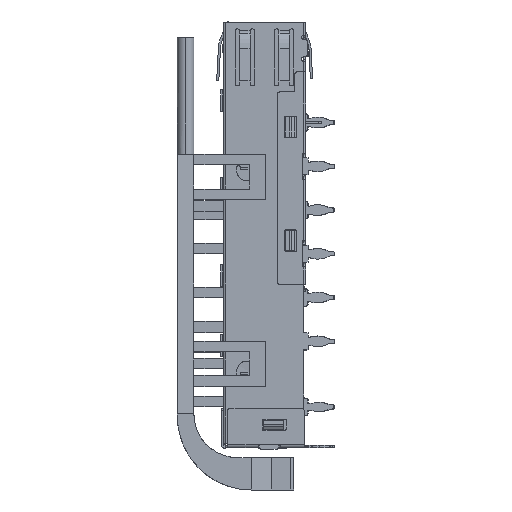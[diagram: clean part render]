
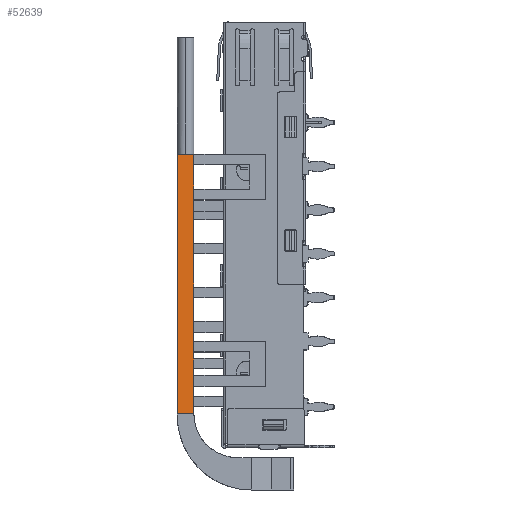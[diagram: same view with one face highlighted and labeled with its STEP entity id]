
A CAD part, left-side view. The second image highlights one B-rep face of the part: STEP entity #52639.
In plain terms, the highlighted planar face has unit normal (-0.997, 0, 0.079).
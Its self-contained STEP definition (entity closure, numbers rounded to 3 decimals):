
#36967=CARTESIAN_POINT('',(119.57,176.489,-41.7));
#36968=VERTEX_POINT('',#36967);
#37095=CARTESIAN_POINT('',(119.674,176.489,-40.4));
#37096=VERTEX_POINT('',#37095);
#37223=CARTESIAN_POINT('',(119.888,176.489,-37.7));
#37224=VERTEX_POINT('',#37223);
#37263=CARTESIAN_POINT('',(119.984,176.489,-36.5));
#37264=VERTEX_POINT('',#37263);
#37325=CARTESIAN_POINT('',(121.271,176.489,-20.3));
#37326=VERTEX_POINT('',#37325);
#37469=CARTESIAN_POINT('',(121.366,176.489,-19.1));
#37470=VERTEX_POINT('',#37469);
#37525=CARTESIAN_POINT('',(121.588,176.489,-16.3));
#37526=VERTEX_POINT('',#37525);
#37669=CARTESIAN_POINT('',(121.684,178.389,-15.1));
#37670=VERTEX_POINT('',#37669);
#37678=CARTESIAN_POINT('',(121.684,176.489,-15.1));
#37679=VERTEX_POINT('',#37678);
#37680=CARTESIAN_POINT('',(121.684,176.489,-15.1));
#37681=CARTESIAN_POINT('',(121.684,177.122,-15.1));
#37682=CARTESIAN_POINT('',(121.684,177.756,-15.1));
#37683=CARTESIAN_POINT('',(121.684,178.389,-15.1));
#37684=B_SPLINE_CURVE_WITH_KNOTS('',3,(#37680,#37681,#37682,#37683),.UNSPECIFIED.,.F.,.U.,(4,4),(0.,1.),.UNSPECIFIED.);
#37685=EDGE_CURVE('',#37679,#37670,#37684,.T.);
#52073=CARTESIAN_POINT('',(119.57,176.489,-41.7));
#52074=CARTESIAN_POINT('',(119.605,176.489,-41.267));
#52075=CARTESIAN_POINT('',(119.639,176.489,-40.833));
#52076=CARTESIAN_POINT('',(119.674,176.489,-40.4));
#52077=B_SPLINE_CURVE_WITH_KNOTS('',3,(#52073,#52074,#52075,#52076),.UNSPECIFIED.,.F.,.U.,(4,4),(0.,1.),.UNSPECIFIED.);
#52078=EDGE_CURVE('',#36968,#37096,#52077,.T.);
#52091=CARTESIAN_POINT('',(119.324,176.489,-44.8));
#52092=VERTEX_POINT('',#52091);
#52093=CARTESIAN_POINT('',(119.324,176.489,-44.8));
#52094=CARTESIAN_POINT('',(119.406,176.489,-43.767));
#52095=CARTESIAN_POINT('',(119.488,176.489,-42.733));
#52096=CARTESIAN_POINT('',(119.57,176.489,-41.7));
#52097=B_SPLINE_CURVE_WITH_KNOTS('',3,(#52093,#52094,#52095,#52096),.UNSPECIFIED.,.F.,.U.,(4,4),(0.,1.),.UNSPECIFIED.);
#52098=EDGE_CURVE('',#52092,#36968,#52097,.T.);
#52186=CARTESIAN_POINT('',(119.324,178.389,-44.8));
#52187=VERTEX_POINT('',#52186);
#52194=CARTESIAN_POINT('',(119.324,178.389,-44.8));
#52195=DIRECTION('',(0.079,0.,0.997));
#52196=VECTOR('',#52195,29.794);
#52197=LINE('',#52194,#52196);
#52198=EDGE_CURVE('',#52187,#37670,#52197,.T.);
#52334=CARTESIAN_POINT('',(121.271,176.489,-20.3));
#52335=DIRECTION('',(-0.079,0.,-0.997));
#52336=VECTOR('',#52335,16.251);
#52337=LINE('',#52334,#52336);
#52338=EDGE_CURVE('',#37326,#37264,#52337,.T.);
#52353=CARTESIAN_POINT('',(119.674,176.489,-40.4));
#52354=CARTESIAN_POINT('',(119.745,176.489,-39.5));
#52355=CARTESIAN_POINT('',(119.817,176.489,-38.6));
#52356=CARTESIAN_POINT('',(119.888,176.489,-37.7));
#52357=B_SPLINE_CURVE_WITH_KNOTS('',3,(#52353,#52354,#52355,#52356),.UNSPECIFIED.,.F.,.U.,(4,4),(0.,1.),.UNSPECIFIED.);
#52358=EDGE_CURVE('',#37096,#37224,#52357,.T.);
#52413=CARTESIAN_POINT('',(119.888,176.489,-37.7));
#52414=CARTESIAN_POINT('',(119.92,176.489,-37.3));
#52415=CARTESIAN_POINT('',(119.952,176.489,-36.9));
#52416=CARTESIAN_POINT('',(119.984,176.489,-36.5));
#52417=B_SPLINE_CURVE_WITH_KNOTS('',3,(#52413,#52414,#52415,#52416),.UNSPECIFIED.,.F.,.U.,(4,4),(0.,1.),.UNSPECIFIED.);
#52418=EDGE_CURVE('',#37224,#37264,#52417,.T.);
#52479=CARTESIAN_POINT('',(121.271,176.489,-20.3));
#52480=DIRECTION('',(0.079,0.,0.997));
#52481=VECTOR('',#52480,1.204);
#52482=LINE('',#52479,#52481);
#52483=EDGE_CURVE('',#37326,#37470,#52482,.T.);
#52548=CARTESIAN_POINT('',(121.588,176.489,-16.3));
#52549=DIRECTION('',(-0.079,0.,-0.997));
#52550=VECTOR('',#52549,2.809);
#52551=LINE('',#52548,#52550);
#52552=EDGE_CURVE('',#37526,#37470,#52551,.T.);
#52588=CARTESIAN_POINT('',(121.588,176.489,-16.3));
#52589=DIRECTION('',(0.079,0.,0.997));
#52590=VECTOR('',#52589,1.204);
#52591=LINE('',#52588,#52590);
#52592=EDGE_CURVE('',#37526,#37679,#52591,.T.);
#52616=CARTESIAN_POINT('',(121.684,178.389,-15.1));
#52617=DIRECTION('',(-0.079,0.,-0.997));
#52618=DIRECTION('',(-0.997,0.,0.079));
#52619=AXIS2_PLACEMENT_3D('',#52616,#52618,#52617);
#52620=PLANE('',#52619);
#52621=ORIENTED_EDGE('',*,*,#52078,.T.);
#52622=ORIENTED_EDGE('',*,*,#52358,.T.);
#52623=ORIENTED_EDGE('',*,*,#52418,.T.);
#52624=ORIENTED_EDGE('',*,*,#52338,.F.);
#52625=ORIENTED_EDGE('',*,*,#52483,.T.);
#52626=ORIENTED_EDGE('',*,*,#52552,.F.);
#52627=ORIENTED_EDGE('',*,*,#52592,.T.);
#52628=ORIENTED_EDGE('',*,*,#37685,.T.);
#52629=ORIENTED_EDGE('',*,*,#52198,.F.);
#52630=CARTESIAN_POINT('',(119.324,178.389,-44.8));
#52631=DIRECTION('',(0.,-1.,0.));
#52632=VECTOR('',#52631,1.9);
#52633=LINE('',#52630,#52632);
#52634=EDGE_CURVE('',#52187,#52092,#52633,.T.);
#52635=ORIENTED_EDGE('E498',*,*,#52634,.T.);
#52636=ORIENTED_EDGE('E498',*,*,#52098,.T.);
#52637=EDGE_LOOP('',(#52621,#52622,#52623,#52624,#52625,#52626,#52627,#52628,#52629,#52635,#52636));
#52638=FACE_OUTER_BOUND('',#52637,.T.);
#52639=ADVANCED_FACE('F130',(#52638),#52620,.T.);
